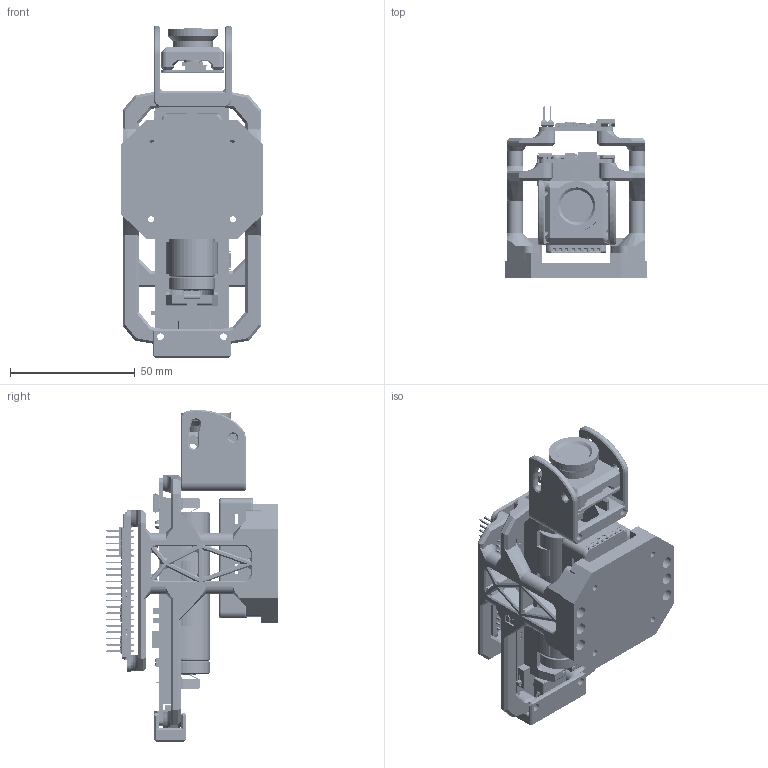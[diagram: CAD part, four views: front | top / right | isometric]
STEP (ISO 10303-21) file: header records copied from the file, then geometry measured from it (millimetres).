
FILE_DESCRIPTION(/* description */ (''),/* implementation_level */ '2;1');
FILE_NAME(/* name */ 'assembly v68.step',/* time_stamp */ '2023-04-30T21:24:45+03:00',/* author */ (''),/* organization */ (''),/* preprocessor_version */ 'ST-DEVELOPER v19.2',/* originating_system */ 'Autodesk Translation Framework v12.4.0.73',/* authorisation */ '');
FILE_SCHEMA (('AUTOMOTIVE_DESIGN { 1 0 10303 214 3 1 1 }'));
Products named in the file (58): assembly; Wemos Battery Shield V3; Component2; Placa; PANASONIC_NCR-18650B v2; Battery Holder v2; Female USB v2; Micro USB v2; shield; socket_housing; socket_plate; terminal; Raspberry PI Zero W; Board; micro_usb_connector v17 v1; micro_usb_connector v17 v1_1; shield_1; socket_housing_1; socket_plate_1; terminal_1; HDRV40W64P254_2X20_5080X508X838B v1; Components; CAPC-0603-T0.9-BN v1; INDC-0603 v1; INDC-0402 v1; CAPC-1206-T1.4-BN v1; CAPC-0805-T0.95-BN v1; CAPC-0402-T0.55-BN v1; RESC-0402 v1; SRN4018 v1; Micro SD slot v1; Mini HDMI v1; Housing; Shielding; Housing2; Pin1; Pin2; M5StickC; M5StickC v14; HRO_TYPE-C-31-M-12 v2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
Assembly tree (164 placements, depth 6):
  assembly
    Wemos Battery Shield V3
      Component2
        Placa
        PANASONIC_NCR-18650B v2
        Battery Holder v2
        Female USB v2
        Micro USB v2
          shield
          socket_housing
          socket_plate
          terminal  x5
    Raspberry PI Zero W
      Board
      micro_usb_connector v17 v1
        shield_1
        socket_housing_1
        socket_plate_1
        terminal_1  x5
      micro_usb_connector v17 v1_1
        shield_1
        socket_housing_1
        socket_plate_1
        terminal_1  x5
      HDRV40W64P254_2X20_5080X508X838B v1
      Components
        CAPC-0402-T0.55-BN v1  x49
        CAPC-0603-T0.9-BN v1  x2
        INDC-0603 v1  x2
        INDC-0402 v1  x6
        CAPC-0805-T0.95-BN v1  x7
        CAPC-1206-T1.4-BN v1
        RESC-0402 v1  x14
        SRN4018 v1
      Micro SD slot v1
      Mini HDMI v1
        Housing
        Shielding
        Housing2
        Pin1  x18
        Pin2
    M5StickC
      M5StickC v14
        HRO_TYPE-C-31-M-12 v2
          HRO_TYPE-C-31-M-12
            ConPins
            PcbPins
            Mold
            Frame
        Grove socket v7
        M2 cap screw 8mm v3
        M2 cap screw 8mm v3 (1)
        pinsocket_8 v2
    Rover_C_chassis_plate
    mounting_adapter_v2
    camera_w_shroud
      Cam V2.1 v1
      camera_mounting_shroud
      lens_mount_adapter_maglock
      adjustable_camera_shroud_mount_w_lens
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Bounding box: 56.8 x 68.99 x 133.08 mm (x, y, z)
Volume: 92596.2 mm3; surface area: 82367.6 mm2
Topology: 213 solids, 213 shells, 11910 faces, 31175 edges, 19254 vertices
Faces by surface type: plane 7529, cylinder 3260, sphere 576, bspline 337, cone 127, torus 81
Full cylindrical faces by diameter (mm): 0.5 x2, 0.6 x12, 1 x38, 1.1 x12, 1.5 x1, 1.575 x1, 1.65 x4, 1.933 x2, 2 x6, 2.15 x4, 2.5 x8, 2.7 x6, 2.75 x4, 2.8 x4, 2.921 x2, 3 x4, 3.1 x12, 3.6 x2, 4.8 x6, 6 x9, 6.25 x1, 7.25 x1, 7.5 x1, 8.2 x1, 9 x1, 10 x1, 12 x2, 13 x1, 13.1 x1, 15 x1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
Entity records: 237058 total; most frequent: CARTESIAN_POINT 52492, ORIENTED_EDGE 38778, DIRECTION 35143, EDGE_CURVE 19389, LINE 14287, VECTOR 14287, VERTEX_POINT 12522, AXIS2_PLACEMENT_3D 10428
